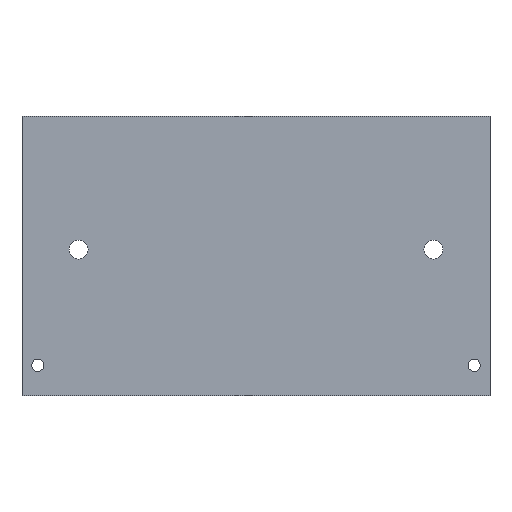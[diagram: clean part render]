
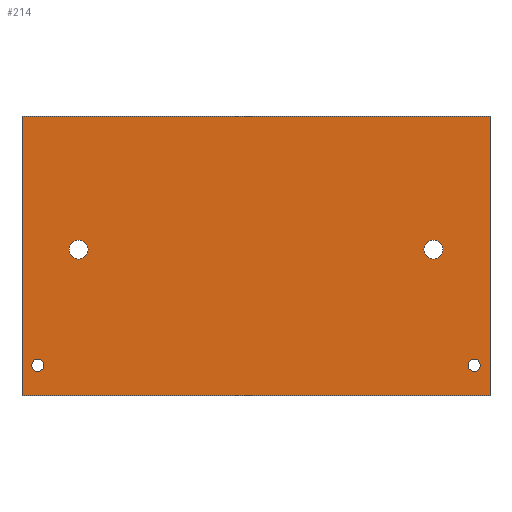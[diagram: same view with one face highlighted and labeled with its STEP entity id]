
A CAD part, top view. The second image highlights one B-rep face of the part: STEP entity #214.
In plain terms, the highlighted planar face has unit normal (0, 0, 1).
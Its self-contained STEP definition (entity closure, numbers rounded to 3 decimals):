
#30=FACE_BOUND('',#63,.T.);
#31=FACE_BOUND('',#64,.T.);
#32=FACE_BOUND('',#65,.T.);
#33=FACE_BOUND('',#66,.T.);
#42=PLANE('',#252);
#52=FACE_OUTER_BOUND('',#62,.T.);
#62=EDGE_LOOP('',(#186,#187,#188,#189));
#63=EDGE_LOOP('',(#190));
#64=EDGE_LOOP('',(#191));
#65=EDGE_LOOP('',(#192));
#66=EDGE_LOOP('',(#193));
#76=LINE('',#342,#92);
#80=LINE('',#350,#96);
#83=LINE('',#356,#99);
#86=LINE('',#361,#102);
#92=VECTOR('',#288,10.);
#96=VECTOR('',#294,10.);
#99=VECTOR('',#299,10.);
#102=VECTOR('',#304,10.);
#104=CIRCLE('',#237,2.95);
#106=CIRCLE('',#240,2.95);
#109=CIRCLE('',#244,1.9);
#111=CIRCLE('',#247,1.9);
#114=VERTEX_POINT('',#316);
#116=VERTEX_POINT('',#322);
#119=VERTEX_POINT('',#330);
#121=VERTEX_POINT('',#336);
#122=VERTEX_POINT('',#340);
#123=VERTEX_POINT('',#341);
#126=VERTEX_POINT('',#349);
#128=VERTEX_POINT('',#355);
#130=EDGE_CURVE('',#114,#114,#104,.T.);
#133=EDGE_CURVE('',#116,#116,#106,.T.);
#138=EDGE_CURVE('',#119,#119,#109,.T.);
#141=EDGE_CURVE('',#121,#121,#111,.T.);
#142=EDGE_CURVE('',#122,#123,#76,.T.);
#146=EDGE_CURVE('',#123,#126,#80,.T.);
#149=EDGE_CURVE('',#126,#128,#83,.T.);
#152=EDGE_CURVE('',#128,#122,#86,.T.);
#186=ORIENTED_EDGE('',*,*,#152,.T.);
#187=ORIENTED_EDGE('',*,*,#142,.T.);
#188=ORIENTED_EDGE('',*,*,#146,.T.);
#189=ORIENTED_EDGE('',*,*,#149,.T.);
#190=ORIENTED_EDGE('',*,*,#130,.T.);
#191=ORIENTED_EDGE('',*,*,#133,.T.);
#192=ORIENTED_EDGE('',*,*,#141,.T.);
#193=ORIENTED_EDGE('',*,*,#138,.T.);
#214=ADVANCED_FACE('',(#52,#30,#31,#32,#33),#42,.T.);
#237=AXIS2_PLACEMENT_3D('',#317,#260,#261);
#240=AXIS2_PLACEMENT_3D('',#323,#267,#268);
#244=AXIS2_PLACEMENT_3D('',#332,#277,#278);
#247=AXIS2_PLACEMENT_3D('',#338,#284,#285);
#252=AXIS2_PLACEMENT_3D('',#363,#306,#307);
#260=DIRECTION('center_axis',(0.,0.,-1.));
#261=DIRECTION('ref_axis',(1.,0.,0.));
#267=DIRECTION('center_axis',(0.,0.,-1.));
#268=DIRECTION('ref_axis',(1.,0.,0.));
#277=DIRECTION('center_axis',(0.,0.,-1.));
#278=DIRECTION('ref_axis',(-1.,0.,0.));
#284=DIRECTION('center_axis',(0.,0.,-1.));
#285=DIRECTION('ref_axis',(-1.,0.,0.));
#288=DIRECTION('',(0.,-1.,0.));
#294=DIRECTION('',(1.,0.,0.));
#299=DIRECTION('',(0.,1.,0.));
#304=DIRECTION('',(-1.,0.,0.));
#306=DIRECTION('center_axis',(0.,0.,1.));
#307=DIRECTION('ref_axis',(1.,0.,0.));
#316=CARTESIAN_POINT('',(-58.15,2.,0.));
#317=CARTESIAN_POINT('Origin',(-55.2,2.,0.));
#322=CARTESIAN_POINT('',(52.25,2.,0.));
#323=CARTESIAN_POINT('Origin',(55.2,2.,0.));
#330=CARTESIAN_POINT('',(-66.,-34.,0.));
#332=CARTESIAN_POINT('Origin',(-67.9,-34.,0.));
#336=CARTESIAN_POINT('',(69.8,-34.,0.));
#338=CARTESIAN_POINT('Origin',(67.9,-34.,0.));
#340=CARTESIAN_POINT('',(-72.8,43.5,0.));
#341=CARTESIAN_POINT('',(-72.8,-43.5,0.));
#342=CARTESIAN_POINT('',(-72.8,43.5,0.));
#349=CARTESIAN_POINT('',(72.8,-43.5,0.));
#350=CARTESIAN_POINT('',(-72.8,-43.5,0.));
#355=CARTESIAN_POINT('',(72.8,43.5,0.));
#356=CARTESIAN_POINT('',(72.8,-43.5,0.));
#361=CARTESIAN_POINT('',(72.8,43.5,0.));
#363=CARTESIAN_POINT('Origin',(0.,0.,0.));
